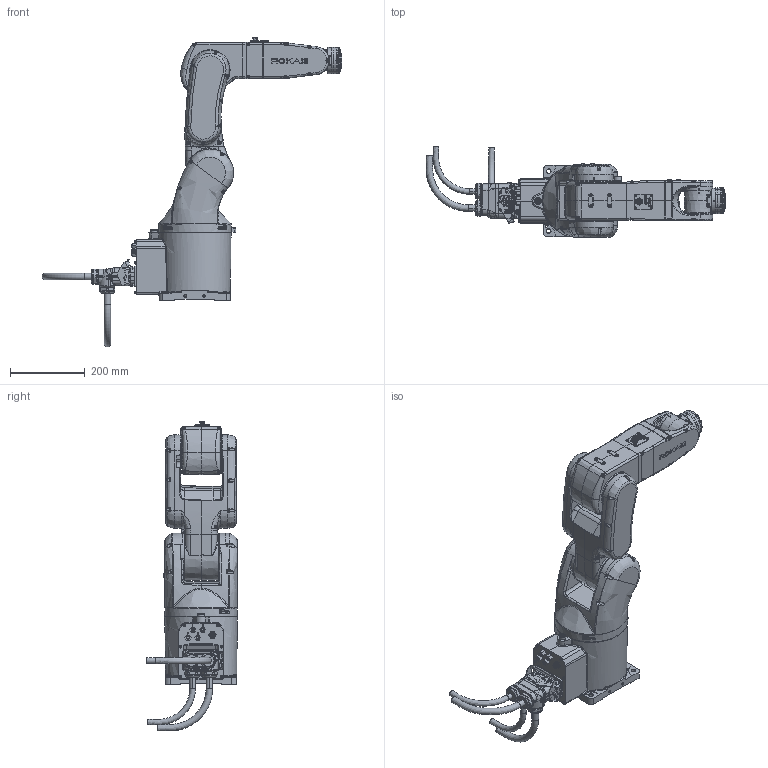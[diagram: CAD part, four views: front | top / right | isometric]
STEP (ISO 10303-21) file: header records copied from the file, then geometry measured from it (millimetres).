
FILE_DESCRIPTION(/* description */ (''),/* implementation_level */ '2;1');
FILE_NAME(/* name */ 'XB4s-R596 简化模型(20200421).stp',/* time_stamp */ '2020-07-27T10:55:47+08:00',/* author */ (''),/* organization */ (''),/* preprocessor_version */ 'ST-DEVELOPER v16',/* originating_system */ 'SIEMENS PLM Software NX 10.0',/* authorisation */ '');
FILE_SCHEMA (('CONFIG_CONTROL_DESIGN'));
Products named in the file (8): XB4s-R596-5; XB4s-R596-4; XB4s-R596-3; XB4s-R596-2; XB4s-R596-1; XB4s-R596-base; XB4s-R596-6; XB4s-R596_stp
Assembly tree (7 placements, depth 2):
  XB4s-R596_stp
    XB4s-R596-6
    XB4s-R596-base
    XB4s-R596-1
    XB4s-R596-2
    XB4s-R596-3
    XB4s-R596-4
    XB4s-R596-5
Bounding box: 802.14 x 243.5 x 829.45 mm (x, y, z)
Volume: 19319926.5 mm3; surface area: 1032175.9 mm2
Topology: 11 solids, 20 shells, 5367 faces, 12605 edges, 7386 vertices
Faces by surface type: plane 2252, cylinder 990, bspline 844, cone 811, torus 272, extrusion 128, sphere 70
Full cylindrical faces by diameter (mm): 2.5 x1, 2.874 x9, 3.2 x1, 3.3 x8, 4.2 x5, 5.5 x60, 6 x2, 6.8 x4, 7 x12, 8 x3, 8.5 x4, 8.6 x4, 10 x13, 10.701 x2, 11 x5, 16 x1, 18 x1, 20 x1, 40 x2, 48 x2, 56 x2, 60 x2, 80 x2, 116 x2, 195 x1
Entity records: 189570 total; most frequent: CARTESIAN_POINT 77585, ORIENTED_EDGE 23798, DIRECTION 21185, EDGE_CURVE 11899, AXIS2_PLACEMENT_3D 8389, VERTEX_POINT 7298, EDGE_LOOP 6026, ADVANCED_FACE 5358
